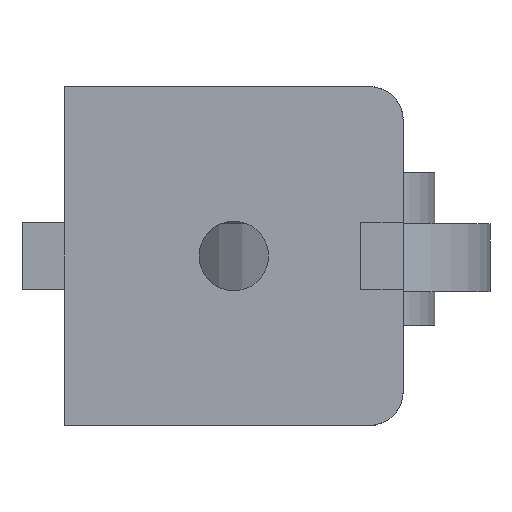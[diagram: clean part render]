
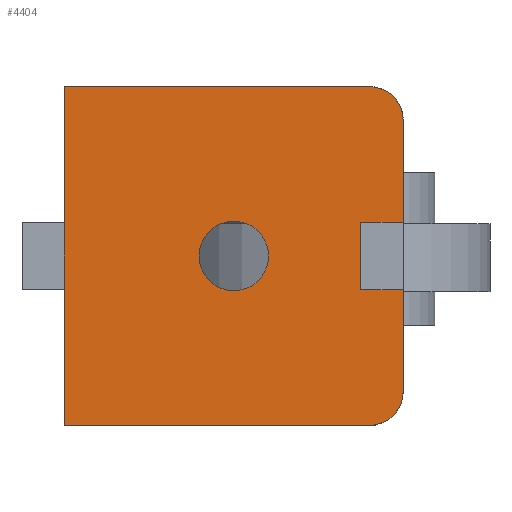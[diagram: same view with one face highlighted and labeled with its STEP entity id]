
A CAD part, left-side view. The second image highlights one B-rep face of the part: STEP entity #4404.
In plain terms, the highlighted planar face has unit normal (-1, 0, 0) as drawn and (0, 0, 1) by its records, which use the part's own axes.
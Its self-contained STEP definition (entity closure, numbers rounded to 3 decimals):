
#119 = ORIENTED_EDGE ( 'NONE', *, *, #1367, .F. ) ;
#156 = CIRCLE ( 'NONE', #3872, 4.1 ) ;
#219 = ORIENTED_EDGE ( 'NONE', *, *, #4390, .T. ) ;
#263 = LINE ( 'NONE', #3762, #1318 ) ;
#345 = EDGE_CURVE ( 'NONE', #1363, #2621, #4778, .T. ) ;
#361 = ORIENTED_EDGE ( 'NONE', *, *, #4729, .T. ) ;
#433 = DIRECTION ( 'NONE',  ( 0., 0., -1. ) ) ;
#492 = CARTESIAN_POINT ( 'NONE',  ( -20., 16., 20. ) ) ;
#588 = VERTEX_POINT ( 'NONE', #4285 ) ;
#761 = CARTESIAN_POINT ( 'NONE',  ( -20., -16., 20. ) ) ;
#787 = DIRECTION ( 'NONE',  ( 0., 0., 1. ) ) ;
#822 = VERTEX_POINT ( 'NONE', #3038 ) ;
#826 = LINE ( 'NONE', #1587, #1987 ) ;
#833 = ORIENTED_EDGE ( 'NONE', *, *, #4043, .T. ) ;
#862 = DIRECTION ( 'NONE',  ( 1., 0., 0. ) ) ;
#893 = VECTOR ( 'NONE', #4880, 1000. ) ;
#928 = VERTEX_POINT ( 'NONE', #1387 ) ;
#1086 = DIRECTION ( 'NONE',  ( 0., 0., 1. ) ) ;
#1127 = ORIENTED_EDGE ( 'NONE', *, *, #2997, .T. ) ;
#1151 = VERTEX_POINT ( 'NONE', #3119 ) ;
#1191 = CARTESIAN_POINT ( 'NONE',  ( -15., -4., 20. ) ) ;
#1218 = CARTESIAN_POINT ( 'NONE',  ( -16., 16., 20. ) ) ;
#1311 = AXIS2_PLACEMENT_3D ( 'NONE', #1218, #1986, #2383 ) ;
#1318 = VECTOR ( 'NONE', #3945, 1000. ) ;
#1349 = ORIENTED_EDGE ( 'NONE', *, *, #2989, .T. ) ;
#1363 = VERTEX_POINT ( 'NONE', #3586 ) ;
#1367 = EDGE_CURVE ( 'NONE', #4052, #588, #263, .T. ) ;
#1387 = CARTESIAN_POINT ( 'NONE',  ( 20., -20., 20. ) ) ;
#1408 = ORIENTED_EDGE ( 'NONE', *, *, #345, .F. ) ;
#1437 = CARTESIAN_POINT ( 'NONE',  ( -15., 4., 20. ) ) ;
#1587 = CARTESIAN_POINT ( 'NONE',  ( -15., 4., 20. ) ) ;
#1648 = AXIS2_PLACEMENT_3D ( 'NONE', #2985, #1086, #3748 ) ;
#1747 = EDGE_CURVE ( 'NONE', #1363, #4842, #1995, .T. ) ;
#1783 = CIRCLE ( 'NONE', #4528, 4.1 ) ;
#1820 = CARTESIAN_POINT ( 'NONE',  ( 0., 0., 20. ) ) ;
#1857 = DIRECTION ( 'NONE',  ( 0., 1., 0. ) ) ;
#1881 = VECTOR ( 'NONE', #4234, 1000. ) ;
#1986 = DIRECTION ( 'NONE',  ( 0., 0., 1. ) ) ;
#1987 = VECTOR ( 'NONE', #2354, 1000. ) ;
#1992 = DIRECTION ( 'NONE',  ( -1., 0., 0. ) ) ;
#1995 = CIRCLE ( 'NONE', #1311, 4. ) ;
#2194 = EDGE_LOOP ( 'NONE', ( #833, #1349 ) ) ;
#2211 = DIRECTION ( 'NONE',  ( -1., 0., 0. ) ) ;
#2256 = VERTEX_POINT ( 'NONE', #3988 ) ;
#2322 = VERTEX_POINT ( 'NONE', #4634 ) ;
#2338 = CARTESIAN_POINT ( 'NONE',  ( 20., 20., 20. ) ) ;
#2354 = DIRECTION ( 'NONE',  ( 0., -1., 0. ) ) ;
#2383 = DIRECTION ( 'NONE',  ( 1., 0., 0. ) ) ;
#2501 = AXIS2_PLACEMENT_3D ( 'NONE', #3086, #787, #3467 ) ;
#2528 = ORIENTED_EDGE ( 'NONE', *, *, #1747, .T. ) ;
#2592 = VERTEX_POINT ( 'NONE', #761 ) ;
#2621 = VERTEX_POINT ( 'NONE', #2338 ) ;
#2679 = VECTOR ( 'NONE', #1992, 1000. ) ;
#2738 = CARTESIAN_POINT ( 'NONE',  ( 0., 0., 20. ) ) ;
#2810 = FACE_OUTER_BOUND ( 'NONE', #4581, .T. ) ;
#2903 = CIRCLE ( 'NONE', #2501, 4. ) ;
#2919 = EDGE_CURVE ( 'NONE', #2592, #3068, #2903, .T. ) ;
#2985 = CARTESIAN_POINT ( 'NONE',  ( -20., -20., 20. ) ) ;
#2989 = EDGE_CURVE ( 'NONE', #2256, #822, #1783, .T. ) ;
#2997 = EDGE_CURVE ( 'NONE', #1151, #2322, #4681, .T. ) ;
#3024 = VECTOR ( 'NONE', #862, 1000. ) ;
#3038 = CARTESIAN_POINT ( 'NONE',  ( -4.1, 0., 20. ) ) ;
#3068 = VERTEX_POINT ( 'NONE', #4652 ) ;
#3082 = LINE ( 'NONE', #4510, #4085 ) ;
#3086 = CARTESIAN_POINT ( 'NONE',  ( -16., -16., 20. ) ) ;
#3104 = ORIENTED_EDGE ( 'NONE', *, *, #2919, .T. ) ;
#3119 = CARTESIAN_POINT ( 'NONE',  ( -15., -4., 20. ) ) ;
#3120 = DIRECTION ( 'NONE',  ( -1., 0., 0. ) ) ;
#3371 = CARTESIAN_POINT ( 'NONE',  ( -20., -20., 20. ) ) ;
#3467 = DIRECTION ( 'NONE',  ( 1., 0., 0. ) ) ;
#3535 = EDGE_CURVE ( 'NONE', #3068, #928, #4386, .T. ) ;
#3576 = ORIENTED_EDGE ( 'NONE', *, *, #3535, .T. ) ;
#3586 = CARTESIAN_POINT ( 'NONE',  ( -16., 20., 20. ) ) ;
#3730 = PLANE ( 'NONE',  #1648 ) ;
#3748 = DIRECTION ( 'NONE',  ( 1., 0., 0. ) ) ;
#3762 = CARTESIAN_POINT ( 'NONE',  ( -15., 4., 20. ) ) ;
#3815 = CARTESIAN_POINT ( 'NONE',  ( -20., -20., 20. ) ) ;
#3817 = EDGE_CURVE ( 'NONE', #2592, #2322, #3082, .T. ) ;
#3848 = ORIENTED_EDGE ( 'NONE', *, *, #4130, .F. ) ;
#3872 = AXIS2_PLACEMENT_3D ( 'NONE', #1820, #4471, #2211 ) ;
#3885 = VECTOR ( 'NONE', #4121, 1000. ) ;
#3939 = LINE ( 'NONE', #4480, #893 ) ;
#3945 = DIRECTION ( 'NONE',  ( -1., 0., 0. ) ) ;
#3988 = CARTESIAN_POINT ( 'NONE',  ( 4.1, 0., 20. ) ) ;
#4036 = ORIENTED_EDGE ( 'NONE', *, *, #3817, .F. ) ;
#4043 = EDGE_CURVE ( 'NONE', #822, #2256, #156, .T. ) ;
#4052 = VERTEX_POINT ( 'NONE', #1437 ) ;
#4085 = VECTOR ( 'NONE', #1857, 1000. ) ;
#4121 = DIRECTION ( 'NONE',  ( 0., 1., 0. ) ) ;
#4130 = EDGE_CURVE ( 'NONE', #588, #4842, #4892, .T. ) ;
#4217 = CARTESIAN_POINT ( 'NONE',  ( -20., 20., 20. ) ) ;
#4234 = DIRECTION ( 'NONE',  ( 1., 0., 0. ) ) ;
#4285 = CARTESIAN_POINT ( 'NONE',  ( -20., 4., 20. ) ) ;
#4386 = LINE ( 'NONE', #3815, #3024 ) ;
#4390 = EDGE_CURVE ( 'NONE', #928, #2621, #3939, .T. ) ;
#4404 = ADVANCED_FACE ( 'NONE', ( #2810, #4823 ), #3730, .T. ) ;
#4471 = DIRECTION ( 'NONE',  ( 0., 0., -1. ) ) ;
#4480 = CARTESIAN_POINT ( 'NONE',  ( 20., -20., 20. ) ) ;
#4510 = CARTESIAN_POINT ( 'NONE',  ( -20., -20., 20. ) ) ;
#4528 = AXIS2_PLACEMENT_3D ( 'NONE', #2738, #433, #3120 ) ;
#4581 = EDGE_LOOP ( 'NONE', ( #1408, #2528, #3848, #119, #361, #1127, #4036, #3104, #3576, #219 ) ) ;
#4634 = CARTESIAN_POINT ( 'NONE',  ( -20., -4., 20. ) ) ;
#4652 = CARTESIAN_POINT ( 'NONE',  ( -16., -20., 20. ) ) ;
#4681 = LINE ( 'NONE', #1191, #2679 ) ;
#4729 = EDGE_CURVE ( 'NONE', #4052, #1151, #826, .T. ) ;
#4778 = LINE ( 'NONE', #4217, #1881 ) ;
#4823 = FACE_BOUND ( 'NONE', #2194, .T. ) ;
#4842 = VERTEX_POINT ( 'NONE', #492 ) ;
#4880 = DIRECTION ( 'NONE',  ( 0., 1., 0. ) ) ;
#4892 = LINE ( 'NONE', #3371, #3885 ) ;
